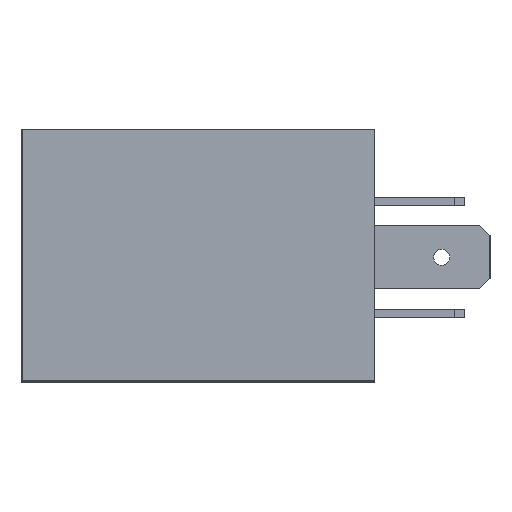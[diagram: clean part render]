
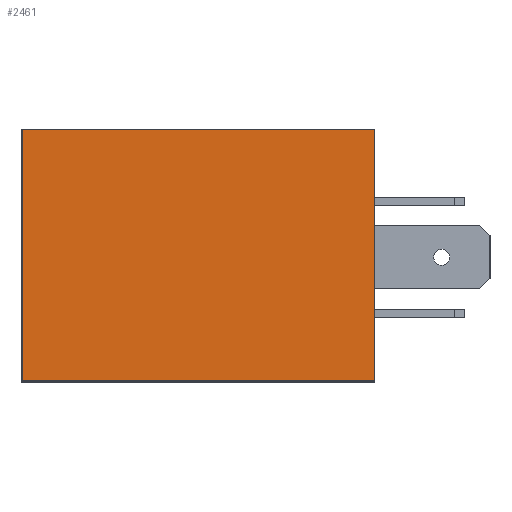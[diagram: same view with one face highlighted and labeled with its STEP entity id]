
A CAD part, top view. The second image highlights one B-rep face of the part: STEP entity #2461.
In plain terms, the highlighted planar face has unit normal (0, 0, 1).
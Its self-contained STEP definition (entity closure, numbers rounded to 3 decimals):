
#2331=CARTESIAN_POINT('',(17.49,-12.49,50.));
#2332=VERTEX_POINT('',#2331);
#2333=CARTESIAN_POINT('',(-17.49,-12.49,50.));
#2334=VERTEX_POINT('',#2333);
#2335=CARTESIAN_POINT('',(17.49,-12.49,50.));
#2336=DIRECTION('',(-1.0,0.0,0.0));
#2337=VECTOR('',#2336,34.98);
#2338=LINE('',#2335,#2337);
#2339=EDGE_CURVE('',#2332,#2334,#2338,.T.);
#2371=CARTESIAN_POINT('',(-17.49,12.49,50.));
#2372=VERTEX_POINT('',#2371);
#2373=CARTESIAN_POINT('',(-17.49,-12.49,50.));
#2374=DIRECTION('',(0.0,1.0,0.0));
#2375=VECTOR('',#2374,24.98);
#2376=LINE('',#2373,#2375);
#2377=EDGE_CURVE('',#2334,#2372,#2376,.T.);
#2402=CARTESIAN_POINT('',(17.49,12.49,50.));
#2403=VERTEX_POINT('',#2402);
#2404=CARTESIAN_POINT('',(-17.49,12.49,50.));
#2405=DIRECTION('',(1.0,0.0,0.0));
#2406=VECTOR('',#2405,34.98);
#2407=LINE('',#2404,#2406);
#2408=EDGE_CURVE('',#2372,#2403,#2407,.T.);
#2433=CARTESIAN_POINT('',(17.49,12.49,50.));
#2434=DIRECTION('',(0.0,-1.0,0.0));
#2435=VECTOR('',#2434,24.98);
#2436=LINE('',#2433,#2435);
#2437=EDGE_CURVE('',#2403,#2332,#2436,.T.);
#2450=CARTESIAN_POINT('',(0.,0.,50.));
#2451=DIRECTION('',(0.0,0.0,1.0));
#2452=DIRECTION('',(1.0,0.0,0.0));
#2453=AXIS2_PLACEMENT_3D('',#2450,#2451,#2452);
#2454=PLANE('',#2453);
#2455=ORIENTED_EDGE('',*,*,#2339,.F.);
#2456=ORIENTED_EDGE('',*,*,#2437,.F.);
#2457=ORIENTED_EDGE('',*,*,#2408,.F.);
#2458=ORIENTED_EDGE('',*,*,#2377,.F.);
#2459=EDGE_LOOP('',(#2455,#2456,#2457,#2458));
#2460=FACE_OUTER_BOUND('',#2459,.T.);
#2461=ADVANCED_FACE('',(#2460),#2454,.T.);
